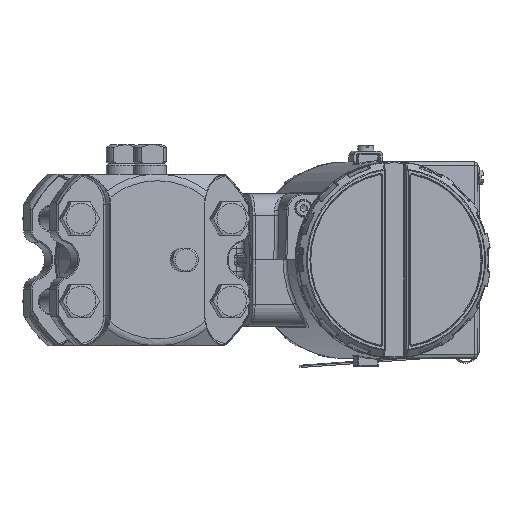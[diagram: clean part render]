
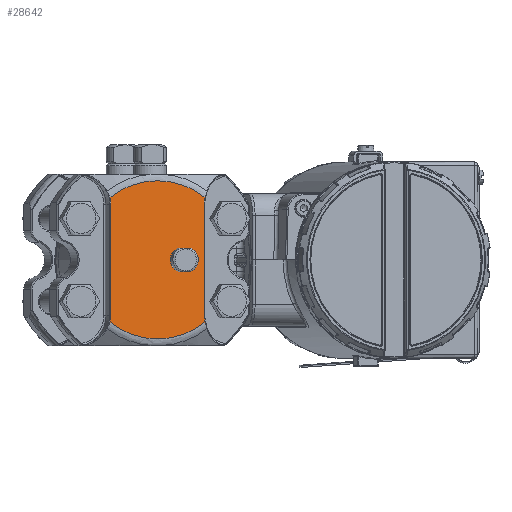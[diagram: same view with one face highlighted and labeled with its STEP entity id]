
A CAD part, top view. The second image highlights one B-rep face of the part: STEP entity #28642.
In plain terms, the highlighted planar face has unit normal (0.201, 0, 0.98) as drawn and (0, 0, 1) by its records, which use the part's own axes.
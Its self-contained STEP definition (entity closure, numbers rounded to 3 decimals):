
#2454=FACE_BOUND('',#5551,.T.);
#2564=PLANE('',#31382);
#3596=FACE_OUTER_BOUND('',#5550,.T.);
#5550=EDGE_LOOP('',(#20366,#20367,#20368,#20369,#20370,#20371,#20372,#20373));
#5551=EDGE_LOOP('',(#20374,#20375));
#7314=LINE('',#46021,#8366);
#7324=LINE('',#46398,#8376);
#8366=VECTOR('',#35327,10.);
#8376=VECTOR('',#35423,10.);
#9583=CIRCLE('',#31082,13.3);
#9587=CIRCLE('',#31088,13.3);
#9614=CIRCLE('',#31125,13.3);
#9618=CIRCLE('',#31131,13.3);
#9727=CIRCLE('',#31323,5.);
#9728=CIRCLE('',#31324,5.);
#9760=CIRCLE('',#31380,33.424);
#9762=CIRCLE('',#31383,33.424);
#11884=VERTEX_POINT('',#46001);
#11886=VERTEX_POINT('',#46013);
#11888=VERTEX_POINT('',#46019);
#11890=VERTEX_POINT('',#46025);
#11924=VERTEX_POINT('',#46378);
#11926=VERTEX_POINT('',#46390);
#11928=VERTEX_POINT('',#46396);
#11930=VERTEX_POINT('',#46402);
#12069=VERTEX_POINT('',#47322);
#12070=VERTEX_POINT('',#47323);
#14749=EDGE_CURVE('',#11886,#11884,#9583,.T.);
#14752=EDGE_CURVE('',#11888,#11886,#7314,.T.);
#14755=EDGE_CURVE('',#11890,#11888,#9587,.T.);
#14809=EDGE_CURVE('',#11926,#11924,#9614,.T.);
#14812=EDGE_CURVE('',#11928,#11926,#7324,.T.);
#14815=EDGE_CURVE('',#11930,#11928,#9618,.T.);
#15046=EDGE_CURVE('',#12069,#12070,#9727,.T.);
#15047=EDGE_CURVE('',#12070,#12069,#9728,.T.);
#15089=EDGE_CURVE('',#11930,#11884,#9760,.T.);
#15091=EDGE_CURVE('',#11890,#11924,#9762,.T.);
#20366=ORIENTED_EDGE('',*,*,#14755,.F.);
#20367=ORIENTED_EDGE('',*,*,#15091,.T.);
#20368=ORIENTED_EDGE('',*,*,#14809,.F.);
#20369=ORIENTED_EDGE('',*,*,#14812,.F.);
#20370=ORIENTED_EDGE('',*,*,#14815,.F.);
#20371=ORIENTED_EDGE('',*,*,#15089,.T.);
#20372=ORIENTED_EDGE('',*,*,#14749,.F.);
#20373=ORIENTED_EDGE('',*,*,#14752,.F.);
#20374=ORIENTED_EDGE('',*,*,#15046,.T.);
#20375=ORIENTED_EDGE('',*,*,#15047,.T.);
#28642=ADVANCED_FACE('',(#3596,#2454),#2564,.T.);
#31082=AXIS2_PLACEMENT_3D('',#46015,#35319,#35320);
#31088=AXIS2_PLACEMENT_3D('',#46027,#35333,#35334);
#31125=AXIS2_PLACEMENT_3D('',#46392,#35415,#35416);
#31131=AXIS2_PLACEMENT_3D('',#46404,#35429,#35430);
#31323=AXIS2_PLACEMENT_3D('',#47324,#35893,#35894);
#31324=AXIS2_PLACEMENT_3D('',#47325,#35895,#35896);
#31380=AXIS2_PLACEMENT_3D('',#47413,#36017,#36018);
#31382=AXIS2_PLACEMENT_3D('',#47415,#36021,#36022);
#31383=AXIS2_PLACEMENT_3D('',#47416,#36023,#36024);
#35319=DIRECTION('center_axis',(0.,0.,1.));
#35320=DIRECTION('ref_axis',(-0.104,0.995,0.));
#35327=DIRECTION('',(-1.,0.,0.));
#35333=DIRECTION('center_axis',(0.,0.,1.));
#35334=DIRECTION('ref_axis',(0.104,0.995,0.));
#35415=DIRECTION('center_axis',(0.,0.,1.));
#35416=DIRECTION('ref_axis',(0.104,-0.995,0.));
#35423=DIRECTION('',(1.,0.,0.));
#35429=DIRECTION('center_axis',(0.,0.,1.));
#35430=DIRECTION('ref_axis',(-0.104,-0.995,0.));
#35893=DIRECTION('center_axis',(0.,0.,-1.));
#35894=DIRECTION('ref_axis',(1.,0.,0.));
#35895=DIRECTION('center_axis',(0.,0.,-1.));
#35896=DIRECTION('ref_axis',(1.,0.,0.));
#36017=DIRECTION('center_axis',(0.,0.,1.));
#36018=DIRECTION('ref_axis',(1.,0.,0.));
#36021=DIRECTION('center_axis',(0.,0.,1.));
#36022=DIRECTION('ref_axis',(1.,0.,0.));
#36023=DIRECTION('center_axis',(0.,0.,1.));
#36024=DIRECTION('ref_axis',(1.,0.,0.));
#46001=CARTESIAN_POINT('',(-26.385,-20.517,31.5));
#46013=CARTESIAN_POINT('',(-23.5,-20.2,31.5));
#46015=CARTESIAN_POINT('Origin',(-23.5,-33.5,31.5));
#46019=CARTESIAN_POINT('',(23.5,-20.2,31.5));
#46021=CARTESIAN_POINT('',(-11.75,-20.2,31.5));
#46025=CARTESIAN_POINT('',(26.385,-20.517,31.5));
#46027=CARTESIAN_POINT('Origin',(23.5,-33.5,31.5));
#46378=CARTESIAN_POINT('',(26.385,20.517,31.5));
#46390=CARTESIAN_POINT('',(23.5,20.2,31.5));
#46392=CARTESIAN_POINT('Origin',(23.5,33.5,31.5));
#46396=CARTESIAN_POINT('',(-23.5,20.2,31.5));
#46398=CARTESIAN_POINT('',(11.75,20.2,31.5));
#46402=CARTESIAN_POINT('',(-26.385,20.517,31.5));
#46404=CARTESIAN_POINT('Origin',(-23.5,33.5,31.5));
#47322=CARTESIAN_POINT('',(5.,10.5,31.5));
#47323=CARTESIAN_POINT('',(-5.,10.5,31.5));
#47324=CARTESIAN_POINT('Origin',(0.,10.5,31.5));
#47325=CARTESIAN_POINT('Origin',(0.,10.5,31.5));
#47413=CARTESIAN_POINT('Origin',(0.,0.,31.5));
#47415=CARTESIAN_POINT('Origin',(0.,0.,
31.5));
#47416=CARTESIAN_POINT('Origin',(0.,0.,31.5));
